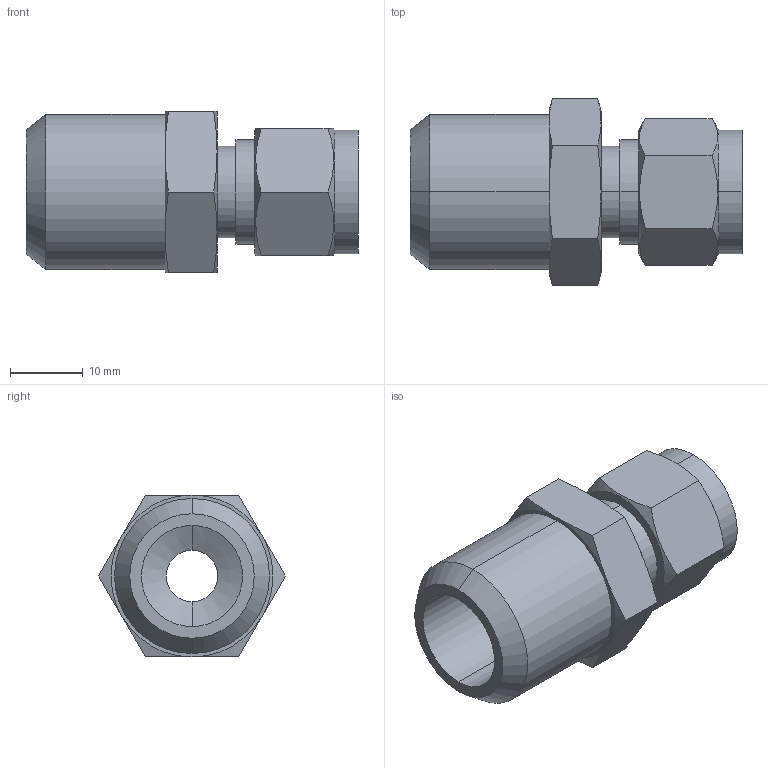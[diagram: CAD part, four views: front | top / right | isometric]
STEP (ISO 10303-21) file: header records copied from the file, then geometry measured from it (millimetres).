
FILE_DESCRIPTION (( 'STEP AP203' ), '1' );
FILE_NAME ('DCB06-08 SS.STEP', '2009-09-08T04:47:22', ( ' ' ), ( '' ), 'SwSTEP 2.0', 'SolidWorks 2008', '' );
FILE_SCHEMA (( 'CONFIG_CONTROL_DESIGN' ));
Length unit declared in the file: millimetre
Products named in the file (1): DCB06-08 SS
Bounding box: 45.6 x 25.67 x 22.23 mm (x, y, z)
Volume: 9684.2 mm3; surface area: 5263.9 mm2
Topology: 1 solids, 1 shells, 53 faces, 118 edges, 72 vertices
Faces by surface type: cone 20, plane 19, cylinder 14
Entity records: 1713 total; most frequent: CARTESIAN_POINT 500, ORIENTED_EDGE 236, DIRECTION 230, EDGE_CURVE 118, AXIS2_PLACEMENT_3D 98, VERTEX_POINT 72, EDGE_LOOP 60, ADVANCED_FACE 53
